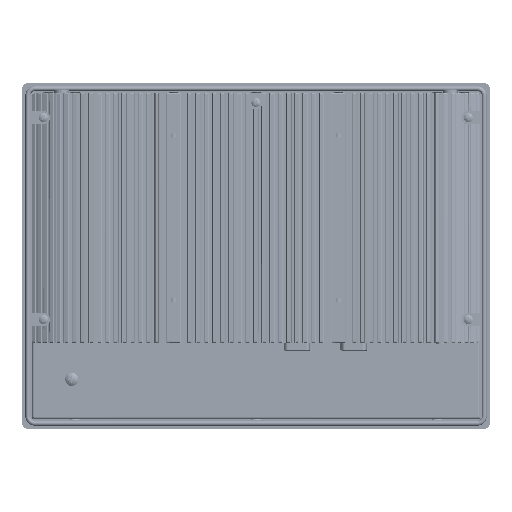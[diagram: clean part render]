
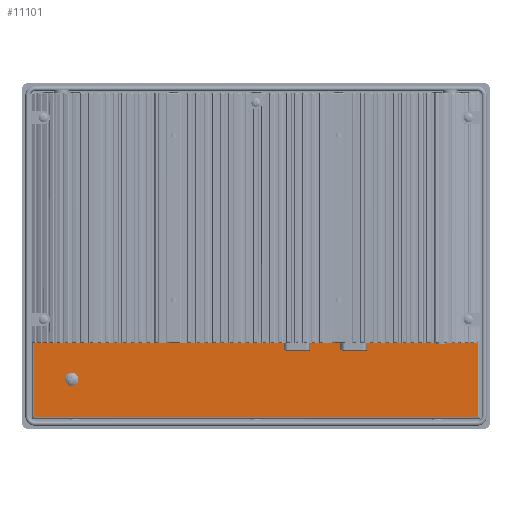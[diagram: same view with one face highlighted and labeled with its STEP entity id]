
A CAD part, top view. The second image highlights one B-rep face of the part: STEP entity #11101.
In plain terms, the highlighted planar face has unit normal (0, 0, 1).
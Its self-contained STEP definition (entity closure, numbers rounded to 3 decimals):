
#936=CARTESIAN_POINT('',(134.5,97.6,22.8));
#938=DIRECTION('',(-1.,0.,0.));
#939=VECTOR('',#938,269.);
#940=CARTESIAN_POINT('',(134.5,97.6,22.8));
#941=LINE('',#940,#939);
#1950=CARTESIAN_POINT('',(-134.5,-97.6,22.8));
#1952=DIRECTION('',(1.,0.,0.));
#1953=VECTOR('',#1952,269.);
#1954=CARTESIAN_POINT('',(-134.5,-97.6,22.8));
#1955=LINE('',#1954,#1953);
#1964=CARTESIAN_POINT('',(-111.8,-74.9,22.8));
#1965=DIRECTION('',(0.,0.,1.));
#1966=DIRECTION('',(0.,1.,0.));
#1967=AXIS2_PLACEMENT_3D('',#1964,#1965,#1966);
#1969=CARTESIAN_POINT('',(-111.8,-74.9,22.8));
#1970=DIRECTION('',(0.,0.,1.));
#1971=DIRECTION('',(0.,-1.,0.));
#1972=AXIS2_PLACEMENT_3D('',#1969,#1970,#1971);
#1982=DIRECTION('',(0.,-1.,0.));
#1983=VECTOR('',#1982,195.2);
#1984=CARTESIAN_POINT('',(-134.5,97.6,22.8));
#1985=LINE('',#1984,#1983);
#2026=DIRECTION('',(0.,1.,0.));
#2027=VECTOR('',#2026,195.2);
#2028=CARTESIAN_POINT('',(134.5,-97.6,22.8));
#2029=LINE('',#2028,#2027);
#6790=CARTESIAN_POINT('',(-134.5,97.6,22.8));
#6791=VERTEX_POINT('',#6790);
#6796=VERTEX_POINT('',#936);
#7064=VERTEX_POINT('',#1950);
#7065=CARTESIAN_POINT('',(134.5,-97.6,22.8));
#7066=VERTEX_POINT('',#7065);
#8649=CARTESIAN_POINT('',(-111.8,-70.9,22.8));
#8650=CARTESIAN_POINT('',(-111.8,-78.9,22.8));
#8651=VERTEX_POINT('',#8649);
#8652=VERTEX_POINT('',#8650);
#11082=CARTESIAN_POINT('',(0.,0.,22.8));
#11083=DIRECTION('',(0.,0.,1.));
#11084=DIRECTION('',(1.,0.,0.));
#11085=AXIS2_PLACEMENT_3D('',#11082,#11083,#11084);
#11086=PLANE('',#11085);
#11088=ORIENTED_EDGE('',*,*,#11087,.F.);
#11089=ORIENTED_EDGE('',*,*,#9672,.F.);
#11091=ORIENTED_EDGE('',*,*,#11090,.F.);
#11092=ORIENTED_EDGE('',*,*,#11075,.F.);
#11093=EDGE_LOOP('',(#11088,#11089,#11091,#11092));
#11094=FACE_OUTER_BOUND('',#11093,.F.);
#11096=ORIENTED_EDGE('',*,*,#11095,.T.);
#11098=ORIENTED_EDGE('',*,*,#11097,.T.);
#11099=EDGE_LOOP('',(#11096,#11098));
#11100=FACE_BOUND('',#11099,.F.);
#11101=ADVANCED_FACE('',(#11094,#11100),#11086,.T.);
#1968=CIRCLE('',#1967,4.);
#1973=CIRCLE('',#1972,4.);
#9672=EDGE_CURVE('',#6796,#6791,#941,.T.);
#11075=EDGE_CURVE('',#7064,#7066,#1955,.T.);
#11087=EDGE_CURVE('',#6791,#7064,#1985,.T.);
#11090=EDGE_CURVE('',#7066,#6796,#2029,.T.);
#11095=EDGE_CURVE('',#8651,#8652,#1968,.T.);
#11097=EDGE_CURVE('',#8652,#8651,#1973,.T.);
